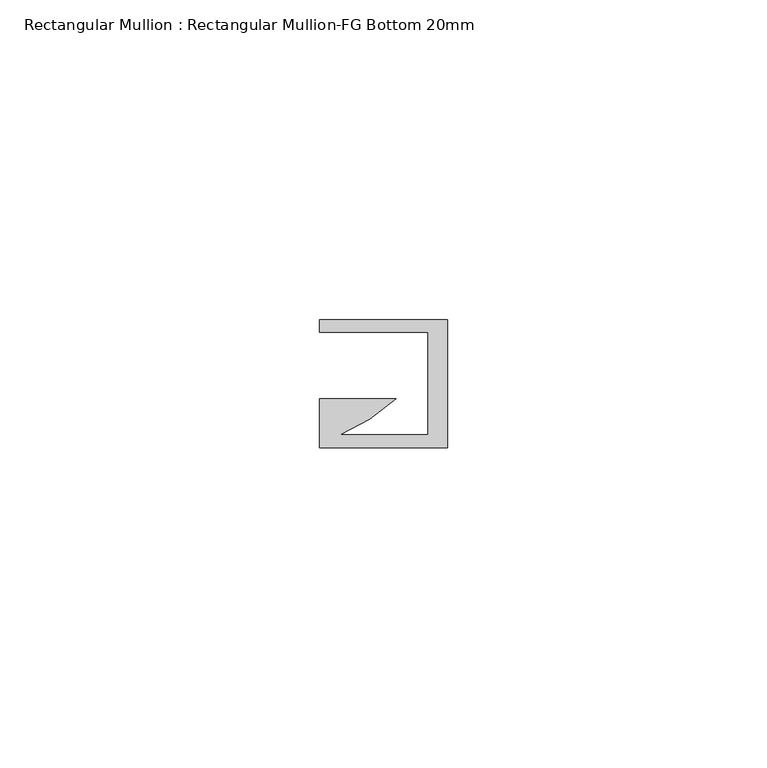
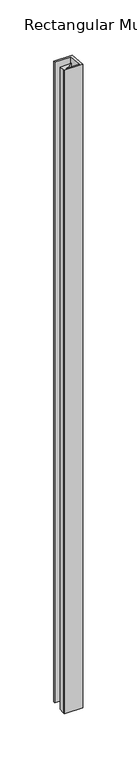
"""IFC4 building model written with IfcOpenShell, lengths in millimetres: member geometry, Rectangular Mullion : Rectangular Mullion-FG Bottom 20mm."""

from ifc_helpers import new_model, si_unit, frame, origin, place, context, project, spatial, ellipse_curve, source, transform, mapped, element, save
from ifc_brep_helpers import plane_surface, cylinder_surface, advanced_brep


def rectangular_mullion_rectangular_mullion_fg_bottom_20mm_b0543de7(model_context):
    return source(origin(), model_context, "Body", "AdvancedBrep", [
        advanced_brep(
        [(-20.0, -0.001, 9.23e-05), (0.0, -0.001, 9.23e-05), (0.0, -0.001, -728.7547277), (-20.0, -0.001, -728.7547277), (-20.0, -2.001, 0.1847207), (-20.0, -2.001, -728.939356), (-3.0, -2.001, 0.1847207), (-3.0, -2.001, -728.939356), (-3.0, -18.001, 1.6617475), (-3.0, -18.001, -730.4163829), (-16.7813522, -18.001, 1.6617475), (-16.7813522, -18.001, -730.4163829), (-8.0121425, -12.381, 1.1429418), (-8.0121425, -12.381, -729.8975772), (-20.0, -12.381, 1.1429418), (-20.0, -12.381, -729.8975772), (-20.0, -18.001, 1.6617475), (-20.0, -18.001, -730.4163829), (-20.0, -20.001, 1.8463758), (-20.0, -20.001, -730.6010112), (0.0, -20.001, 1.8463758), (0.0, -20.001, -730.6010112)],
        [
            (0, 1),
            (1, 2),
            (2, 3),
            (3, 0),
            (4, 0),
            (3, 5),
            (5, 4),
            (6, 4),
            (5, 7),
            (7, 6),
            (8, 6),
            (7, 9),
            (9, 8),
            (10, 8),
            (9, 11),
            (11, 10),
            (12, 10, ellipse_curve(frame((-28.5616269, 10.0319926, -0.9260951), z_axis=(0.0, -0.09192332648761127, -0.9957660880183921), x_axis=(0.0, -0.9957660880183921, 0.09192332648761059)), 30.5369138, 30.4076232)),
            (11, 13, ellipse_curve(frame((-28.5616269, 10.0319926, -727.8285402), z_axis=(0.0, -0.09192332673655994, 0.9957660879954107), x_axis=(0.0, 0.9957660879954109, 0.09192332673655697)), 30.5369138, 30.4076232)),
            (13, 12),
            (14, 12),
            (13, 15),
            (15, 14),
            (16, 14),
            (15, 17),
            (17, 16),
            (18, 16),
            (17, 19),
            (19, 18),
            (20, 18),
            (19, 21),
            (21, 20),
            (1, 20),
            (21, 2),
        ],
        [
            plane_surface(frame((0.0, -0.001, 0.0), z_axis=(0.0, 1.0, 0.0), x_axis=(0.0, 0.0, -1.0))),
            plane_surface(frame((-20.0, -0.001, 0.0), z_axis=(-1.0, 0.0, 0.0), x_axis=(0.0, 0.0, -1.0))),
            plane_surface(frame((-20.0, -2.001, 0.0), z_axis=(0.0, -1.0, 0.0), x_axis=(0.0, 0.0, -1.0))),
            plane_surface(frame((-3.0, -2.001, 0.0), z_axis=(-1.0, 0.0, 0.0), x_axis=(0.0, 0.0, -1.0))),
            plane_surface(frame((-3.0, -18.001, 0.0), z_axis=(0.0, 1.0, 0.0), x_axis=(0.0, 0.0, -1.0))),
            cylinder_surface(frame((-28.5616269, 10.0319926, 0.0), z_axis=(0.0, 0.0, 1.0), x_axis=(-1.0, 0.0, 0.0)), 30.4076232),
            plane_surface(frame((-8.0121425, -12.381, 0.0), z_axis=(0.0, 1.0, 0.0), x_axis=(0.0, 0.0, -1.0))),
            plane_surface(frame((-20.0, -12.381, 0.0), z_axis=(-1.0, 0.0, 0.0), x_axis=(0.0, 0.0, -1.0))),
            plane_surface(frame((-20.0, -18.001, 0.0), z_axis=(-1.0, 0.0, 0.0), x_axis=(0.0, 0.0, -1.0))),
            plane_surface(frame((-20.0, -20.001, 0.0), z_axis=(0.0, -1.0, 0.0), x_axis=(0.0, 0.0, -1.0))),
            plane_surface(frame((0.0, -20.001, 0.0), z_axis=(1.0, 0.0, 0.0), x_axis=(0.0, 0.0, -1.0))),
            plane_surface(frame((-304.8, 0.0, 0.0), z_axis=(0.0, 0.09192332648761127, 0.9957660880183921), x_axis=(0.0, 0.9957660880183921, -0.09192332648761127))),
            plane_surface(frame((91420.0, 91048.7145366, 7676.3324992), z_axis=(0.0, 0.09192332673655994, -0.9957660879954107), x_axis=(-1.0, 0.0, 0.0))),
        ],
        [
            (0, [[1, 2, 3, 4]]),
            (1, [[5, -4, 6, 7]]),
            (2, [[8, -7, 9, 10]]),
            (3, [[11, -10, 12, 13]]),
            (4, [[14, -13, 15, 16]]),
            (5, [[17, -16, 18, 19]]),
            (6, [[20, -19, 21, 22]]),
            (7, [[23, -22, 24, 25]]),
            (8, [[26, -25, 27, 28]]),
            (9, [[29, -28, 30, 31]]),
            (10, [[32, -31, 33, -2]]),
            (11, [[-1, -5, -8, -11, -14, -17, -20, -23, -26, -29, -32]]),
            (12, [[-33, -30, -27, -24, -21, -18, -15, -12, -9, -6, -3]]),
        ],
    ),
    ])


if __name__ == "__main__":
    model = new_model("IFC4")
    model_context = context("Model", 3, world=origin())
    ifc_project = project(units=[si_unit("LENGTHUNIT", "METRE", prefix="MILLI")], contexts=[model_context])
    site = spatial("IfcSite", under=ifc_project)
    building = spatial("IfcBuilding", under=site)
    placement = place(None, origin())
    rectangular_mullion_rectangular_mullion_fg_bottom_20mm_shape = rectangular_mullion_rectangular_mullion_fg_bottom_20mm_b0543de7(model_context)
    element("IfcMember", 1, ObjectType="Rectangular Mullion : Rectangular Mullion-FG Bottom 20mm", at=placement, inside=building, context=model_context, shape_type="MappedRepresentation", body=[
        mapped(rectangular_mullion_rectangular_mullion_fg_bottom_20mm_shape, transform((0.0, 0.0, 0.0), x_axis=(1.0, 0.0, 0.0), y_axis=(0.0, 1.0, 0.0), z_axis=(0.0, 0.0, 1.0))),
    ])
    save(model, "model.ifc")
